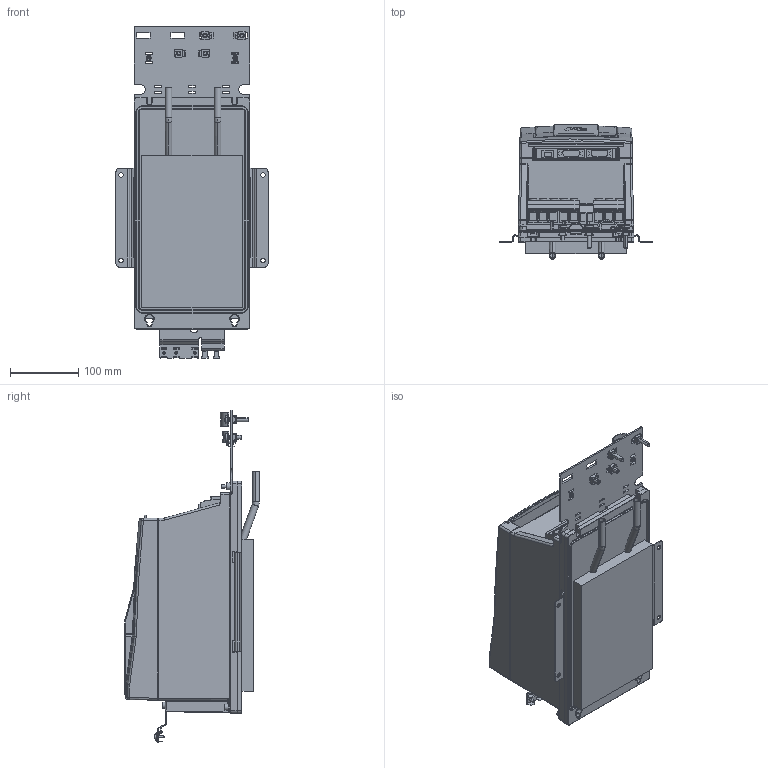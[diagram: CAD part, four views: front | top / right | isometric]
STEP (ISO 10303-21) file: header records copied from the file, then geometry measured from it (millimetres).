
FILE_DESCRIPTION (( 'STEP AP214' ), '1' );
FILE_NAME ('F6-3 TW5-A031.STEP', '2022-05-25T09:35:38', ( '' ), ( '' ), 'SwSTEP 2.0', 'SolidWorks 2019', '' );
FILE_SCHEMA (( 'AUTOMOTIVE_DESIGN' ));
Length unit declared in the file: millimetre
Products named in the file (13): Kundenmodell^10068340_000; 10035736_000_Kundenmodell; 10061030_000_Kundenmodell; 10040482_000_Kundenmodell; Kundenmodell^10047114_000; Kundenmodell^10059764_000; F6-3 TW5-A031; 10068340_000_Leistungsteil TW5 (Kundenmodell); 10047114_000_Kundenmodell; Kundenmodell^10061030_000; Kundenmodell^10035736_000; Kundenmodell^10040482_000; 10059764_000_Blindabdeckung (Kundenmodell)
Assembly tree (12 placements, depth 4):
  F6-3 TW5-A031
    10068340_000_Leistungsteil TW5 (Kundenmodell)
      Kundenmodell^10068340_000
    10040482_000_Kundenmodell
      Kundenmodell^10040482_000
    10035736_000_Kundenmodell
      10059764_000_Blindabdeckung (Kundenmodell)
        Kundenmodell^10059764_000
      Kundenmodell^10035736_000
    10047114_000_Kundenmodell
      Kundenmodell^10047114_000
    10061030_000_Kundenmodell
      Kundenmodell^10061030_000
Bounding box: 223 x 197.4 x 486.8 mm (x, y, z)
Volume: 8056854.5 mm3; surface area: 657293.9 mm2
Topology: 16 solids, 23 shells, 3504 faces, 9190 edges, 5794 vertices
Faces by surface type: plane 1615, cylinder 1176, bspline 381, torus 147, cone 127, sphere 58
Entity records: 122008 total; most frequent: CARTESIAN_POINT 33610, ORIENTED_EDGE 18252, DIRECTION 16653, EDGE_CURVE 9126, VERTEX_POINT 5793, AXIS2_PLACEMENT_3D 5767, LINE 5119, VECTOR 5119
